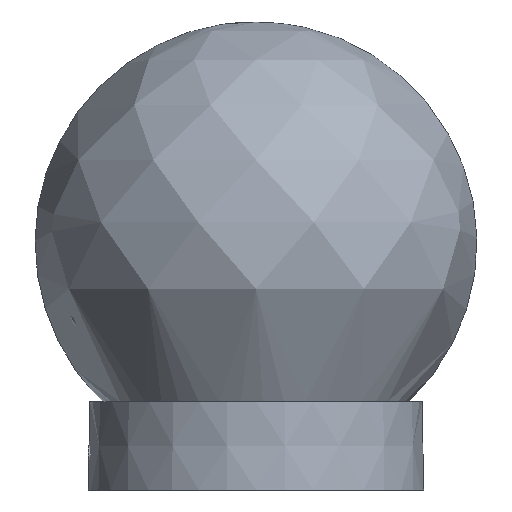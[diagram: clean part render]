
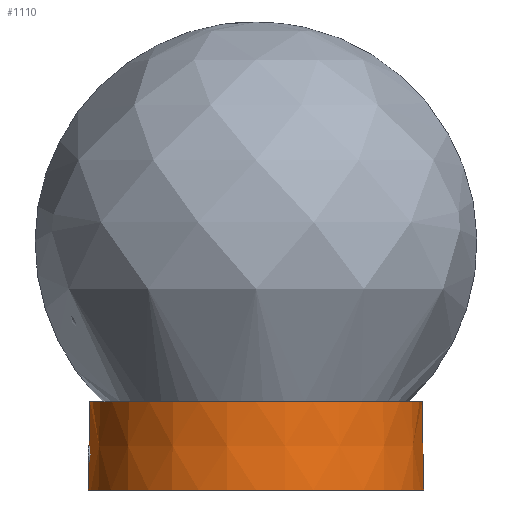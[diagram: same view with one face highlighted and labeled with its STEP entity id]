
A CAD part, left-side view. The second image highlights one B-rep face of the part: STEP entity #1110.
In plain terms, the highlighted conical face has half-angle 1 degrees and reference radius 37.965 mm.
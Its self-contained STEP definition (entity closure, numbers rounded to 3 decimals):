
#91=CONICAL_SURFACE('',#1254,37.965,0.017);
#158=FACE_OUTER_BOUND('',#238,.T.);
#238=EDGE_LOOP('',(#993,#994,#995,#996));
#313=CIRCLE('',#1251,37.651);
#315=CIRCLE('',#1255,38.);
#386=LINE('',#2617,#460);
#387=LINE('',#2620,#461);
#460=VECTOR('',#1595,304.8);
#461=VECTOR('',#1598,304.8);
#553=VERTEX_POINT('',#2609);
#554=VERTEX_POINT('',#2610);
#555=VERTEX_POINT('',#2616);
#556=VERTEX_POINT('',#2618);
#699=EDGE_CURVE('',#553,#554,#313,.T.);
#700=EDGE_CURVE('',#555,#553,#386,.T.);
#702=EDGE_CURVE('',#554,#556,#387,.T.);
#703=EDGE_CURVE('',#555,#556,#315,.T.);
#993=ORIENTED_EDGE('',*,*,#699,.T.);
#994=ORIENTED_EDGE('',*,*,#702,.T.);
#995=ORIENTED_EDGE('',*,*,#703,.F.);
#996=ORIENTED_EDGE('',*,*,#700,.T.);
#1110=ADVANCED_FACE('',(#158),#91,.T.);
#1251=AXIS2_PLACEMENT_3D('',#2614,#1591,#1592);
#1254=AXIS2_PLACEMENT_3D('',#2621,#1599,#1600);
#1255=AXIS2_PLACEMENT_3D('',#2622,#1601,#1602);
#1591=DIRECTION('center_axis',(0.,0.,-1.));
#1592=DIRECTION('ref_axis',(0.809,0.588,0.));
#1595=DIRECTION('',(0.017,0.,1.));
#1598=DIRECTION('',(0.017,0.,-1.));
#1599=DIRECTION('center_axis',(0.,0.,
-1.));
#1600=DIRECTION('ref_axis',(0.809,0.588,0.));
#1601=DIRECTION('center_axis',(0.,0.,-1.));
#1602=DIRECTION('ref_axis',(0.809,0.588,0.));
#2609=CARTESIAN_POINT('',(-37.651,0.,20.));
#2610=CARTESIAN_POINT('',(37.651,0.,20.));
#2614=CARTESIAN_POINT('Origin',(0.,0.,
20.));
#2616=CARTESIAN_POINT('',(-38.,0.,0.));
#2617=CARTESIAN_POINT('',(-38.,0.,0.));
#2618=CARTESIAN_POINT('',(38.,0.,0.));
#2620=CARTESIAN_POINT('',(37.651,0.,20.));
#2621=CARTESIAN_POINT('Origin',(0.,0.,
2.));
#2622=CARTESIAN_POINT('Origin',(0.,0.,
0.));
